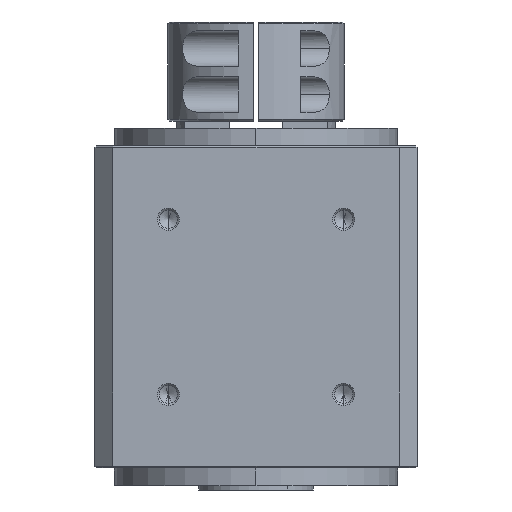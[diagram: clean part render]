
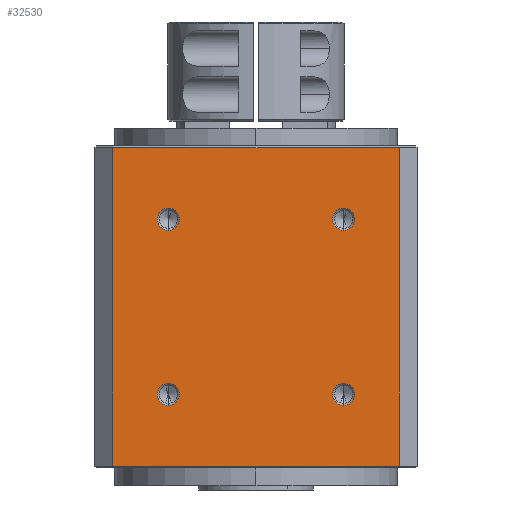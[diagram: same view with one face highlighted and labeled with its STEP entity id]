
A CAD part, left-side view. The second image highlights one B-rep face of the part: STEP entity #32530.
In plain terms, the highlighted planar face has unit normal (-1, 0, 0).
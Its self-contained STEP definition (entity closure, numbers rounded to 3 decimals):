
#9732 = CARTESIAN_POINT ( 'NONE',  ( -91., 49.497, 45.253 ) ) ;
#9798 = AXIS2_PLACEMENT_3D ( 'NONE', #9983, #9883, #9882 ) ;
#9882 = DIRECTION ( 'NONE',  ( 0., 0., 1. ) ) ;
#9883 = DIRECTION ( 'NONE',  ( -1., 0., 0. ) ) ;
#9906 = DIRECTION ( 'NONE',  ( 0., 0., 1. ) ) ;
#9907 = DIRECTION ( 'NONE',  ( -1., 0., 0. ) ) ;
#9909 = CARTESIAN_POINT ( 'NONE',  ( -91., 49.497, 51.503 ) ) ;
#9911 = AXIS2_PLACEMENT_3D ( 'NONE', #9909, #9907, #9906 ) ;
#9912 = CIRCLE ( 'NONE', #9911, 6.25 ) ;
#9929 = CARTESIAN_POINT ( 'NONE',  ( -91., 49.497, 57.753 ) ) ;
#9975 = CIRCLE ( 'NONE', #9798, 6.25 ) ;
#9983 = CARTESIAN_POINT ( 'NONE',  ( -91., -49.497, 51.503 ) ) ;
#9988 = CARTESIAN_POINT ( 'NONE',  ( -91., -49.497, 57.753 ) ) ;
#10407 = CARTESIAN_POINT ( 'NONE',  ( -91., -49.497, 144.247 ) ) ;
#10662 = CARTESIAN_POINT ( 'NONE',  ( -91., 49.497, 144.247 ) ) ;
#10663 = CARTESIAN_POINT ( 'NONE',  ( -91., -49.497, 156.747 ) ) ;
#11482 = AXIS2_PLACEMENT_3D ( 'NONE', #11735, #11515, #11513 ) ;
#11513 = DIRECTION ( 'NONE',  ( 0., 0., 1. ) ) ;
#11515 = DIRECTION ( 'NONE',  ( -1., 0., 0. ) ) ;
#11554 = CARTESIAN_POINT ( 'NONE',  ( -91., 49.497, 156.747 ) ) ;
#11729 = CIRCLE ( 'NONE', #11482, 6.25 ) ;
#11735 = CARTESIAN_POINT ( 'NONE',  ( -91., 49.497, 150.497 ) ) ;
#12972 = AXIS2_PLACEMENT_3D ( 'NONE', #13019, #13226, #13101 ) ;
#13019 = CARTESIAN_POINT ( 'NONE',  ( -91., -49.497, 150.497 ) ) ;
#13101 = DIRECTION ( 'NONE',  ( 0., 0., 1. ) ) ;
#13137 = CIRCLE ( 'NONE', #12972, 6.25 ) ;
#13226 = DIRECTION ( 'NONE',  ( -1., 0., 0. ) ) ;
#13379 = DIRECTION ( 'NONE',  ( 0., 0., -1. ) ) ;
#13385 = PLANE ( 'NONE',  #13555 ) ;
#13434 = FACE_BOUND ( 'NONE', #32532, .T. ) ;
#13436 = CIRCLE ( 'NONE', #13470, 6.25 ) ;
#13470 = AXIS2_PLACEMENT_3D ( 'NONE', #13568, #13552, #13551 ) ;
#13533 = DIRECTION ( 'NONE',  ( 1., 0., 0. ) ) ;
#13544 = FACE_BOUND ( 'NONE', #32752, .T. ) ;
#13545 = FACE_BOUND ( 'NONE', #32669, .T. ) ;
#13546 = CARTESIAN_POINT ( 'NONE',  ( -91., 91., 202. ) ) ;
#13549 = FACE_BOUND ( 'NONE', #32673, .T. ) ;
#13551 = DIRECTION ( 'NONE',  ( 0., 0., 1. ) ) ;
#13552 = DIRECTION ( 'NONE',  ( -1., 0., 0. ) ) ;
#13555 = AXIS2_PLACEMENT_3D ( 'NONE', #13546, #13533, #13379 ) ;
#13556 = FACE_OUTER_BOUND ( 'NONE', #32677, .T. ) ;
#13568 = CARTESIAN_POINT ( 'NONE',  ( -91., 49.497, 51.503 ) ) ;
#13600 = CARTESIAN_POINT ( 'NONE',  ( -91., 81., 11. ) ) ;
#13604 = CIRCLE ( 'NONE', #13622, 6.25 ) ;
#13613 = CARTESIAN_POINT ( 'NONE',  ( -91., -49.497, 150.497 ) ) ;
#13622 = AXIS2_PLACEMENT_3D ( 'NONE', #14013, #14078, #14075 ) ;
#13819 = DIRECTION ( 'NONE',  ( 0., 0., -1. ) ) ;
#13820 = VECTOR ( 'NONE', #13819, 1000. ) ;
#13822 = CARTESIAN_POINT ( 'NONE',  ( -91., 81., 202. ) ) ;
#13829 = DIRECTION ( 'NONE',  ( 0., 0., 1. ) ) ;
#13833 = DIRECTION ( 'NONE',  ( -1., 0., 0. ) ) ;
#13836 = CARTESIAN_POINT ( 'NONE',  ( -91., 49.497, 150.497 ) ) ;
#14011 = CARTESIAN_POINT ( 'NONE',  ( -91., 81., 191. ) ) ;
#14013 = CARTESIAN_POINT ( 'NONE',  ( -91., -49.497, 51.503 ) ) ;
#14055 = LINE ( 'NONE', #13822, #13820 ) ;
#14058 = DIRECTION ( 'NONE',  ( 0., 0., 1. ) ) ;
#14060 = DIRECTION ( 'NONE',  ( -1., 0., 0. ) ) ;
#14061 = AXIS2_PLACEMENT_3D ( 'NONE', #13836, #13833, #13829 ) ;
#14063 = CIRCLE ( 'NONE', #14061, 6.25 ) ;
#14068 = AXIS2_PLACEMENT_3D ( 'NONE', #13613, #14060, #14058 ) ;
#14075 = DIRECTION ( 'NONE',  ( 0., 0., 1. ) ) ;
#14078 = DIRECTION ( 'NONE',  ( -1., 0., 0. ) ) ;
#14083 = CIRCLE ( 'NONE', #14068, 6.25 ) ;
#14095 = CARTESIAN_POINT ( 'NONE',  ( -91., -81., 11. ) ) ;
#14340 = LINE ( 'NONE', #14421, #14419 ) ;
#14343 = DIRECTION ( 'NONE',  ( 0., 0., 1. ) ) ;
#14355 = VECTOR ( 'NONE', #14343, 1000. ) ;
#14357 = CARTESIAN_POINT ( 'NONE',  ( -91., -81., 202. ) ) ;
#14358 = LINE ( 'NONE', #14357, #14355 ) ;
#14360 = CARTESIAN_POINT ( 'NONE',  ( -91., -81., 191. ) ) ;
#14418 = DIRECTION ( 'NONE',  ( 0., 1., 0. ) ) ;
#14419 = VECTOR ( 'NONE', #14418, 1000. ) ;
#14421 = CARTESIAN_POINT ( 'NONE',  ( -91., 81., 191. ) ) ;
#14561 = LINE ( 'NONE', #14653, #14652 ) ;
#14650 = DIRECTION ( 'NONE',  ( 0., -1., 0. ) ) ;
#14652 = VECTOR ( 'NONE', #14650, 1000. ) ;
#14653 = CARTESIAN_POINT ( 'NONE',  ( -91., -81., 11. ) ) ;
#18101 = CARTESIAN_POINT ( 'NONE',  ( -91., -49.497, 45.253 ) ) ;
#31939 = VERTEX_POINT ( 'NONE', #18101 ) ;
#32103 = VERTEX_POINT ( 'NONE', #9988 ) ;
#32105 = EDGE_CURVE ( 'NONE', #31939, #32103, #9975, .T. ) ;
#32128 = VERTEX_POINT ( 'NONE', #9929 ) ;
#32130 = EDGE_CURVE ( 'NONE', #32132, #32128, #9912, .T. ) ;
#32132 = VERTEX_POINT ( 'NONE', #9732 ) ;
#32151 = VERTEX_POINT ( 'NONE', #10407 ) ;
#32283 = VERTEX_POINT ( 'NONE', #10663 ) ;
#32289 = VERTEX_POINT ( 'NONE', #10662 ) ;
#32396 = EDGE_CURVE ( 'NONE', #32289, #32428, #11729, .T. ) ;
#32428 = VERTEX_POINT ( 'NONE', #11554 ) ;
#32438 = EDGE_CURVE ( 'NONE', #32151, #32283, #13137, .T. ) ;
#32502 = ORIENTED_EDGE ( 'NONE', *, *, #32523, .F. ) ;
#32523 = EDGE_CURVE ( 'NONE', #32128, #32132, #13436, .T. ) ;
#32530 = ADVANCED_FACE ( 'NONE', ( #13545, #13544, #13434, #13549, #13556 ), #13385, .F. ) ;
#32531 = ORIENTED_EDGE ( 'NONE', *, *, #32130, .F. ) ;
#32532 = EDGE_LOOP ( 'NONE', ( #32676, #32680 ) ) ;
#32613 = VERTEX_POINT ( 'NONE', #14095 ) ;
#32669 = EDGE_LOOP ( 'NONE', ( #32502, #32531 ) ) ;
#32670 = EDGE_CURVE ( 'NONE', #32103, #31939, #13604, .T. ) ;
#32671 = VERTEX_POINT ( 'NONE', #13600 ) ;
#32672 = ORIENTED_EDGE ( 'NONE', *, *, #32670, .F. ) ;
#32673 = EDGE_LOOP ( 'NONE', ( #32698, #32679 ) ) ;
#32674 = ORIENTED_EDGE ( 'NONE', *, *, #32105, .F. ) ;
#32675 = EDGE_CURVE ( 'NONE', #32283, #32151, #14083, .T. ) ;
#32676 = ORIENTED_EDGE ( 'NONE', *, *, #32675, .F. ) ;
#32677 = EDGE_LOOP ( 'NONE', ( #32701, #32693, #32695, #32753 ) ) ;
#32678 = VERTEX_POINT ( 'NONE', #14011 ) ;
#32679 = ORIENTED_EDGE ( 'NONE', *, *, #32396, .F. ) ;
#32680 = ORIENTED_EDGE ( 'NONE', *, *, #32438, .F. ) ;
#32681 = EDGE_CURVE ( 'NONE', #32428, #32289, #14063, .T. ) ;
#32682 = EDGE_CURVE ( 'NONE', #32678, #32671, #14055, .T. ) ;
#32693 = ORIENTED_EDGE ( 'NONE', *, *, #32702, .T. ) ;
#32694 = EDGE_CURVE ( 'NONE', #32613, #32700, #14358, .T. ) ;
#32695 = ORIENTED_EDGE ( 'NONE', *, *, #32694, .T. ) ;
#32696 = EDGE_CURVE ( 'NONE', #32700, #32678, #14340, .T. ) ;
#32698 = ORIENTED_EDGE ( 'NONE', *, *, #32681, .F. ) ;
#32700 = VERTEX_POINT ( 'NONE', #14360 ) ;
#32701 = ORIENTED_EDGE ( 'NONE', *, *, #32682, .T. ) ;
#32702 = EDGE_CURVE ( 'NONE', #32671, #32613, #14561, .T. ) ;
#32752 = EDGE_LOOP ( 'NONE', ( #32672, #32674 ) ) ;
#32753 = ORIENTED_EDGE ( 'NONE', *, *, #32696, .T. ) ;
